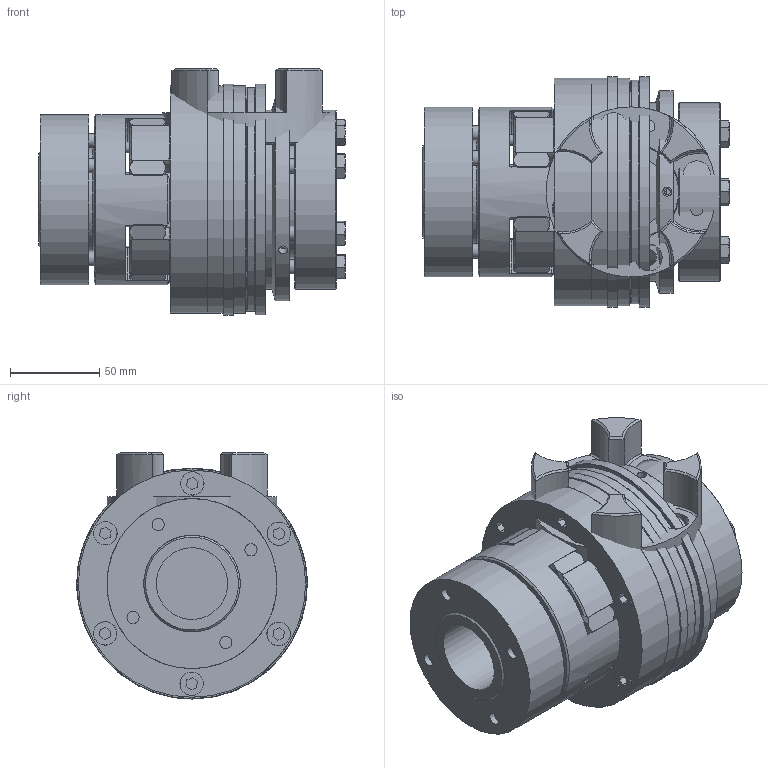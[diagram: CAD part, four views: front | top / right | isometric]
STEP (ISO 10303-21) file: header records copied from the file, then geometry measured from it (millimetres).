
FILE_DESCRIPTION( ( 'Unknown' ), '1' );
FILE_NAME( 'C:/Dokumente und Einstellungen/Sven/Desktop/hp kbk/E-AA/KBK EAA-42-191.stp', 'Unknown', ( 'Unknown' ), ( 'Unknown' ), 'XStep 1.0', 'Unknown', ' ' );
FILE_SCHEMA( ( 'automotive_design' ) );
Length unit declared in the file: millimetre
Products named in the file (19): Assem1; Assem2; Assem3; ball_bearing_-_6013_0_01_0; ball_bearing_-_6013_0_02_0; ball_bearing_-_6013_0_03_0; Zylinderschraube DIN 912_7; Stellring 500_0; Druckring 500_0; Flansch 500_0; a_65_0; KBK L-A-500 Grundkörper_0; Druckring L-A-500_0; din_en_24017_m8x35_0; Elastormerflansch 42_0; Zahnkranz 42_0; KBE 3 - 42_Nabe; KBE 3 - 42_Druckring_0; ISO EN DIN 4762 M8x35
Bounding box: 171.35 x 129 x 137.5 mm (x, y, z)
Volume: 2398832.6 mm3; surface area: 663740.7 mm2
Topology: 49 solids, 49 shells, 1180 faces, 2590 edges, 1655 vertices
Faces by surface type: plane 419, cylinder 388, cone 305, torus 68
Full cylindrical faces by diameter (mm): 3 x4, 3.242 x6, 5.1 x6, 5.2 x6, 6 x16, 6.647 x24, 6.8 x16, 7 x5, 8 x25, 8.2 x12, 8.5 x12, 8.8 x8, 11.63 x7, 13 x13, 13.1 x12, 15 x8, 35 x2, 40 x4, 46 x4, 58 x2, 62 x2, 65 x7, 65.111 x2, 76.3 x6, 86 x4, 89.1 x6, 91 x2, 95 x4, 100 x9, 104.5 x2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
Entity records: 12706 total; most frequent: CARTESIAN_POINT 2798, DIRECTION 2138, ORIENTED_EDGE 1616, AXIS2_PLACEMENT_3D 992, EDGE_CURVE 808, EDGE_LOOP 740, VERTEX_POINT 602, FACE_OUTER_BOUND 569
